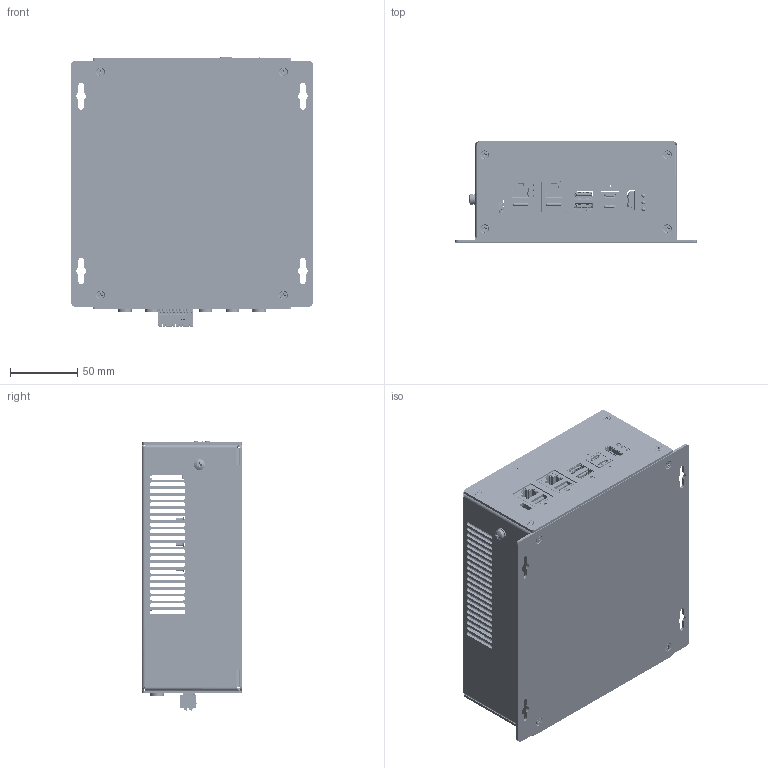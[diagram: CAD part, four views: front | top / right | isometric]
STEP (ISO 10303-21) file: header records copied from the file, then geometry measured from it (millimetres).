
FILE_DESCRIPTION((''),'2;1');
FILE_NAME('00_ASM','2025-11-17T10:05:28',('Lenovo'),(''),'CREO PARAMETRIC BY PTC INC, 2022073','CREO PARAMETRIC BY PTC INC, 2022073','');
FILE_SCHEMA(('AUTOMOTIVE_DESIGN { 1 0 10303 214 1 1 1 1 }'));
Products named in the file (226): 00; GB_T17880_2_1_M3; GB_T17880_1_2_M3-15; GB_T17880_1_2_M3-28; M40001; 00_ASM; BOARD; R1206; R0402; C0402; ACW4532B-2-510TF; NUP2105L; KLXES15AAA1; BTC-641-BN01; AT24C02D-MAHM-T; SI7149ADP-T1-GE3; AONR21321; 74LVC1G32SE-7; 74AUP1G08SE-7; 74LV1T08GWH; 74LVC1G17GW; TPS3840DL20DBVR; NCA1051N-DSPR; SDCW2012U-2-900TF; SDCW2012H-2-900TF; BDFN10A054U; XAL1580-102MEB; 7443551130; W25X10CLSNIG; NAE12S20-C; LT8390EFE; NAM12S06-D; ASM1806; PXTD010M227E040STU; BDFN2C051U2; BSD3C051L2; BDFN2C051V40; LBZT52C3V3T1G; SMBJ12CA; RB521S30T1G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
Assembly tree (1618 placements, depth 7):
  00_ASM
    00_ASM
      00
      GB_T17880_2_1_M3  x12
      GB_T17880_1_2_M3-15  x4
      GB_T17880_1_2_M3-28  x7
      M40001
    0009_ASM
      Y-C28-V1-0_0811A1_ASM
        Y-C28-V1-0_0811A1_1_ASM
          BOARD
          COMPONENTS_ASM
            R1206  x8
            R0402  x607
            C0402  x331
            ACW4532B-2-510TF  x4
            NUP2105L  x4
            KLXES15AAA1  x70
            BTC-641-BN01
            AT24C02D-MAHM-T
            SI7149ADP-T1-GE3
            AONR21321
            74LVC1G32SE-7
            74AUP1G08SE-7
            74LV1T08GWH
            74LVC1G17GW
            TPS3840DL20DBVR
            NCA1051N-DSPR  x4
            SDCW2012U-2-900TF  x11
            SDCW2012H-2-900TF  x4
            BDFN10A054U  x3
            XAL1580-102MEB
            7443551130
            W25X10CLSNIG
            NAE12S20-C  x2
            LT8390EFE
            NAM12S06-D
            ASM1806
            PXTD010M227E040STU  x2
            BDFN2C051U2  x26
            BSD3C051L2  x8
            BDFN2C051V40
            LBZT52C3V3T1G
            SMBJ12CA
            RB521S30T1G
            HDR200M-1X4
            NTS4001NT1G  x8
            PMV32UP  x2
            MMBT3904LT1
            FDV301N
            R0805  x16
            HD3SS3220IRNHR  x2
            SGM2576YN5G  x5
            NCP380HSNAJAAT1G  x2
            EFM8SB10F2G-A-QFN20
            SN74LVC1G07DBVR
            MX25L512EMI-10G
            UPD720201K8-711-BAC-A
            PA2512FKF7T0R001E
            WSL36376L000FEA  x2
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Bounding box: 180 x 75 x 200.53 mm (x, y, z)
Volume: 321909 mm3; surface area: 387534.2 mm2
Topology: 1610 solids, 1642 shells, 45724 faces, 121183 edges, 79553 vertices
Faces by surface type: plane 35548, cylinder 7313, extrusion 1901, cone 304, bspline 273, torus 233, sphere 152
Entity records: 1272471 total; most frequent: CARTESIAN_POINT 227709, ORIENTED_EDGE 178410, DIRECTION 164179, EDGE_CURVE 89205, VECTOR 72353, LINE 70559, VERTEX_POINT 58666, PRESENTATION_STYLE_ASSIGNMENT 50290
